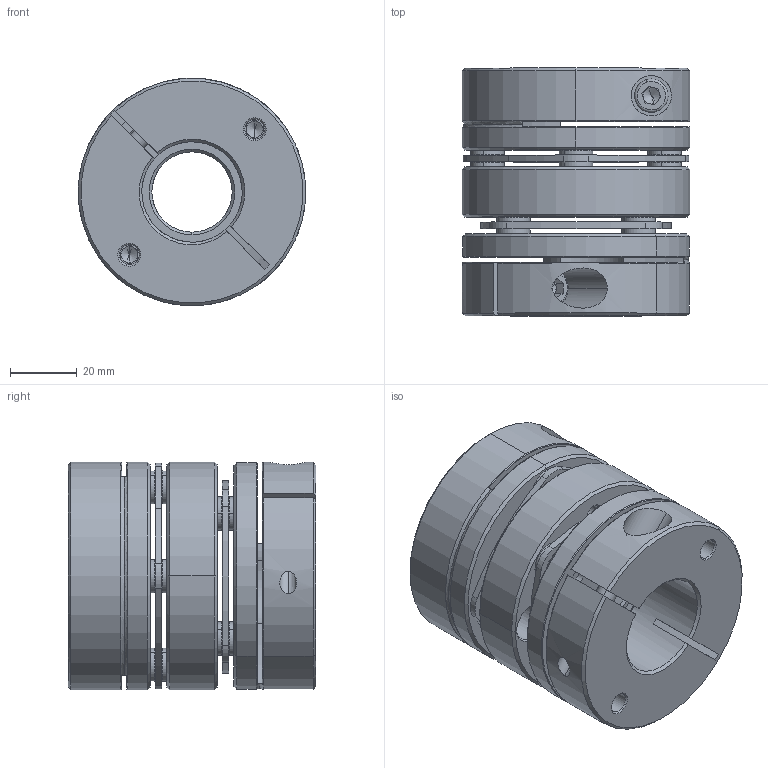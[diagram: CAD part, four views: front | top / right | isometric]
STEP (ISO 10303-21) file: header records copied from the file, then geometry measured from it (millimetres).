
FILE_DESCRIPTION (( 'STEP AP203' ), '1' );
FILE_NAME ('LD2-D68-24-30.STEP', '2021-10-26T08:44:07', ( '' ), ( '' ), 'SwSTEP 2.0', 'SolidWorks 2018', '' );
FILE_SCHEMA (( 'CONFIG_CONTROL_DESIGN' ));
Length unit declared in the file: millimetre
Products named in the file (2): 錨璃102^LD2-D68; LD2-D68-24-30
Assembly tree (1 placements, depth 2):
  LD2-D68-24-30
    錨璃102^LD2-D68
Bounding box: 68 x 74 x 68 mm (x, y, z)
Volume: 177660.1 mm3; surface area: 63523.7 mm2
Topology: 1 solids, 27 shells, 732 faces, 1696 edges, 1032 vertices
Faces by surface type: cylinder 256, cone 226, plane 220, torus 30
Entity records: 21398 total; most frequent: DIRECTION 3974, CARTESIAN_POINT 3912, ORIENTED_EDGE 3344, EDGE_CURVE 1672, AXIS2_PLACEMENT_3D 1614, VERTEX_POINT 1032, CIRCLE 878, EDGE_LOOP 868
